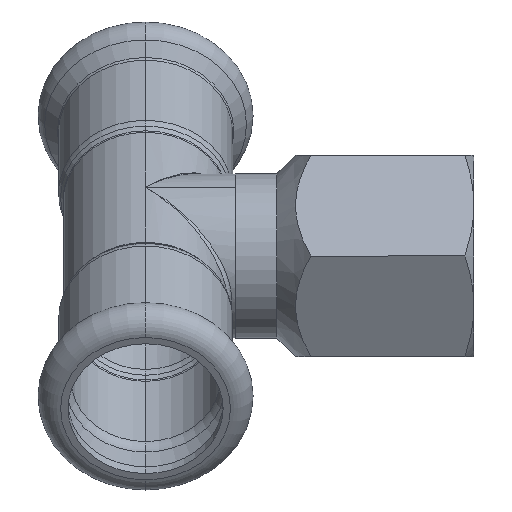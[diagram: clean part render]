
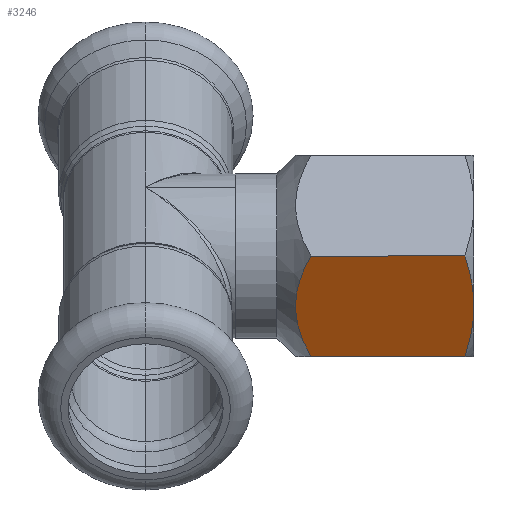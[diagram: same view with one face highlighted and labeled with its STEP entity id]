
A CAD part, left-side view. The second image highlights one B-rep face of the part: STEP entity #3246.
In plain terms, the highlighted planar face has unit normal (-0.866, 0, -0.5).
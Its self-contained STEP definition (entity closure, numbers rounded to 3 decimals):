
#84 = B_SPLINE_CURVE_WITH_KNOTS ( 'NONE', 3,
 ( #1686, #3275, #959, #3357, #2551, #2840 ),
 .UNSPECIFIED., .F., .F.,
 ( 4, 2, 4 ),
 ( 0., 0.004, 0.007 ),
 .UNSPECIFIED. ) ;
#133 = VERTEX_POINT ( 'NONE', #1558 ) ;
#145 = CARTESIAN_POINT ( 'NONE',  ( -13.017, 20.887, -1.954 ) ) ;
#213 = EDGE_LOOP ( 'NONE', ( #550, #713, #3323, #1454, #945 ) ) ;
#331 = VECTOR ( 'NONE', #3145, 1000. ) ;
#356 = VECTOR ( 'NONE', #3102, 1000. ) ;
#480 = CARTESIAN_POINT ( 'NONE',  ( -7.073, 1.094, -12.25 ) ) ;
#485 = B_SPLINE_CURVE_WITH_KNOTS ( 'NONE', 3,
 ( #3373, #2804, #2545, #2303, #1477, #1204, #2537, #3076 ),
 .UNSPECIFIED., .F., .F.,
 ( 4, 2, 2, 4 ),
 ( 0.007, 0.009, 0.011, 0.014 ),
 .UNSPECIFIED. ) ;
#490 = EDGE_CURVE ( 'NONE', #1979, #2553, #485, .T. ) ;
#550 = ORIENTED_EDGE ( 'NONE', *, *, #3328, .T. ) ;
#713 = ORIENTED_EDGE ( 'NONE', *, *, #2007, .T. ) ;
#728 = CARTESIAN_POINT ( 'NONE',  ( -14.145, 1.094, 0. ) ) ;
#901 = EDGE_CURVE ( 'NONE', #1688, #133, #2607, .T. ) ;
#919 = CARTESIAN_POINT ( 'NONE',  ( -8.19, 20.877, -10.314 ) ) ;
#945 = ORIENTED_EDGE ( 'NONE', *, *, #901, .F. ) ;
#959 = CARTESIAN_POINT ( 'NONE',  ( -8.234, 0.485, -10.239 ) ) ;
#1204 = CARTESIAN_POINT ( 'NONE',  ( -12.986, 0.486, -2.007 ) ) ;
#1217 = CARTESIAN_POINT ( 'NONE',  ( -11.213, 21.753, -5.078 ) ) ;
#1228 = CARTESIAN_POINT ( 'NONE',  ( -7.073, 19.855, -12.25 ) ) ;
#1453 = LINE ( 'NONE', #2348, #331 ) ;
#1454 = ORIENTED_EDGE ( 'NONE', *, *, #2522, .F. ) ;
#1477 = CARTESIAN_POINT ( 'NONE',  ( -12.103, 0.2, -3.537 ) ) ;
#1494 = CARTESIAN_POINT ( 'NONE',  ( -9.068, 21.381, -8.794 ) ) ;
#1558 = CARTESIAN_POINT ( 'NONE',  ( -14.145, 19.855, 0. ) ) ;
#1658 = CARTESIAN_POINT ( 'NONE',  ( -10.609, 0., -6.125 ) ) ;
#1686 = CARTESIAN_POINT ( 'NONE',  ( -7.073, 1.094, -12.25 ) ) ;
#1688 = VERTEX_POINT ( 'NONE', #1795 ) ;
#1745 = CARTESIAN_POINT ( 'NONE',  ( -11.82, 21.566, -4.027 ) ) ;
#1795 = CARTESIAN_POINT ( 'NONE',  ( -7.073, 19.855, -12.25 ) ) ;
#1956 = LINE ( 'NONE', #3038, #356 ) ;
#1979 = VERTEX_POINT ( 'NONE', #1658 ) ;
#2007 = EDGE_CURVE ( 'NONE', #2728, #1979, #84, .T. ) ;
#2177 = FACE_OUTER_BOUND ( 'NONE', #213, .T. ) ;
#2278 = CARTESIAN_POINT ( 'NONE',  ( -9.366, 21.515, -8.278 ) ) ;
#2302 = CARTESIAN_POINT ( 'NONE',  ( -13.589, 20.411, -0.963 ) ) ;
#2303 = CARTESIAN_POINT ( 'NONE',  ( -11.807, 0.126, -4.05 ) ) ;
#2348 = CARTESIAN_POINT ( 'NONE',  ( -7.073, 29., -12.25 ) ) ;
#2383 = PLANE ( 'NONE',  #2967 ) ;
#2522 = EDGE_CURVE ( 'NONE', #133, #2553, #1956, .T. ) ;
#2537 = CARTESIAN_POINT ( 'NONE',  ( -13.568, 0.761, -0.999 ) ) ;
#2545 = CARTESIAN_POINT ( 'NONE',  ( -11.21, 0.026, -5.083 ) ) ;
#2551 = CARTESIAN_POINT ( 'NONE',  ( -10.006, 0., -7.169 ) ) ;
#2553 = VERTEX_POINT ( 'NONE', #728 ) ;
#2557 = CARTESIAN_POINT ( 'NONE',  ( -7.625, 20.408, -11.293 ) ) ;
#2607 = B_SPLINE_CURVE_WITH_KNOTS ( 'NONE', 3,
 ( #1228, #2557, #919, #1494, #2278, #3112, #3360, #1217, #1745, #145, #2302, #3087 ),
 .UNSPECIFIED., .F., .F.,
 ( 4, 2, 2, 2, 2, 4 ),
 ( 0., 0.004, 0.005, 0.007, 0.011, 0.015 ),
 .UNSPECIFIED. ) ;
#2728 = VERTEX_POINT ( 'NONE', #480 ) ;
#2804 = CARTESIAN_POINT ( 'NONE',  ( -10.909, 0., -5.605 ) ) ;
#2840 = CARTESIAN_POINT ( 'NONE',  ( -10.609, 0., -6.125 ) ) ;
#2967 = AXIS2_PLACEMENT_3D ( 'NONE', #3157, #3405, #3167 ) ;
#3038 = CARTESIAN_POINT ( 'NONE',  ( -14.145, 29., 0. ) ) ;
#3076 = CARTESIAN_POINT ( 'NONE',  ( -14.145, 1.094, 0. ) ) ;
#3087 = CARTESIAN_POINT ( 'NONE',  ( -14.145, 19.855, 0. ) ) ;
#3102 = DIRECTION ( 'NONE',  ( 0., -1., 0. ) ) ;
#3112 = CARTESIAN_POINT ( 'NONE',  ( -9.974, 21.699, -7.225 ) ) ;
#3145 = DIRECTION ( 'NONE',  ( 0., -1., 0. ) ) ;
#3157 = CARTESIAN_POINT ( 'NONE',  ( -7.073, 29., -12.25 ) ) ;
#3167 = DIRECTION ( 'NONE',  ( 0.5, 0., -0.866 ) ) ;
#3246 = ADVANCED_FACE ( 'NONE', ( #2177 ), #2383, .F. ) ;
#3275 = CARTESIAN_POINT ( 'NONE',  ( -7.651, 0.76, -11.248 ) ) ;
#3323 = ORIENTED_EDGE ( 'NONE', *, *, #490, .T. ) ;
#3328 = EDGE_CURVE ( 'NONE', #1688, #2728, #1453, .T. ) ;
#3357 = CARTESIAN_POINT ( 'NONE',  ( -9.411, 0.104, -8.199 ) ) ;
#3360 = CARTESIAN_POINT ( 'NONE',  ( -10.287, 21.749, -6.682 ) ) ;
#3373 = CARTESIAN_POINT ( 'NONE',  ( -10.609, 0., -6.125 ) ) ;
#3405 = DIRECTION ( 'NONE',  ( 0.866, 0., 0.5 ) ) ;
